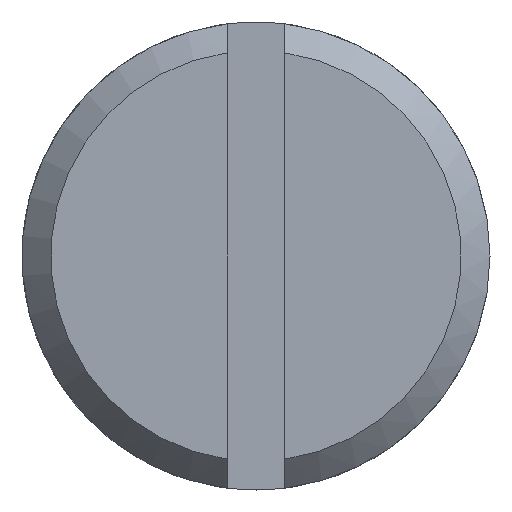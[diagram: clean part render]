
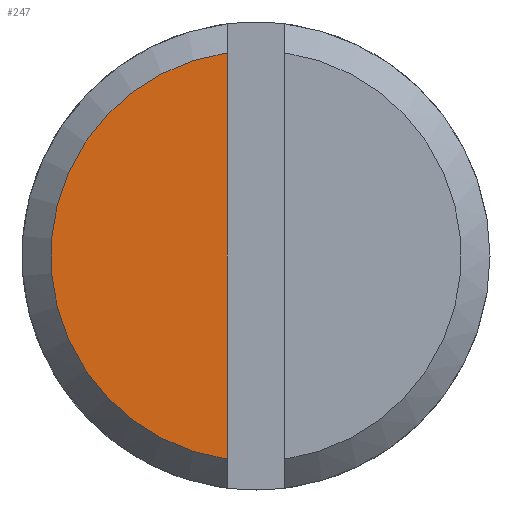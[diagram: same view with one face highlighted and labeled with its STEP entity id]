
A CAD part, left-side view. The second image highlights one B-rep face of the part: STEP entity #247.
In plain terms, the highlighted planar face has unit normal (-1, 0, 0).
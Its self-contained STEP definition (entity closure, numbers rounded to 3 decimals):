
#30=PLANE('',#300);
#45=FACE_OUTER_BOUND('',#62,.T.);
#62=EDGE_LOOP('',(#220,#221));
#80=LINE('',#454,#93);
#93=VECTOR('',#368,10.);
#108=CIRCLE('',#297,5.7);
#129=VERTEX_POINT('',#443);
#130=VERTEX_POINT('',#447);
#160=EDGE_CURVE('',#130,#129,#108,.T.);
#162=EDGE_CURVE('',#130,#129,#80,.T.);
#220=ORIENTED_EDGE('',*,*,#160,.F.);
#221=ORIENTED_EDGE('',*,*,#162,.T.);
#247=ADVANCED_FACE('',(#45),#30,.T.);
#297=AXIS2_PLACEMENT_3D('',#451,#363,#364);
#300=AXIS2_PLACEMENT_3D('',#456,#371,#372);
#363=DIRECTION('center_axis',(1.,0.,0.));
#364=DIRECTION('ref_axis',(0.,1.,0.));
#368=DIRECTION('',(0.,0.,1.));
#371=DIRECTION('center_axis',(-1.,0.,0.));
#372=DIRECTION('ref_axis',(0.,0.,1.));
#443=CARTESIAN_POINT('',(-3.1,0.8,5.644));
#447=CARTESIAN_POINT('',(-3.1,0.8,-5.644));
#451=CARTESIAN_POINT('Origin',(-3.1,0.,0.));
#454=CARTESIAN_POINT('',(-3.1,0.8,0.));
#456=CARTESIAN_POINT('Origin',(-3.1,3.25,0.));
